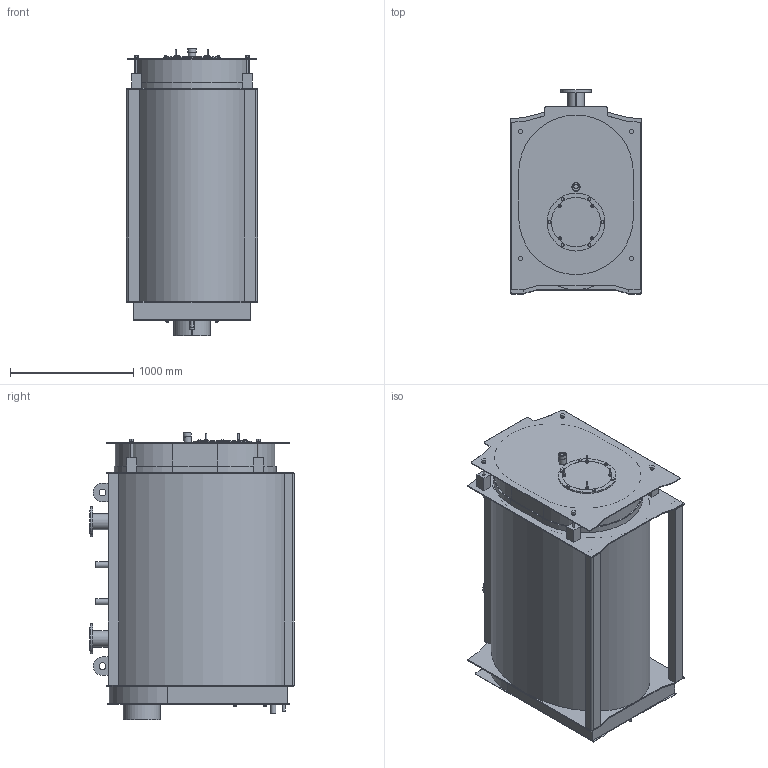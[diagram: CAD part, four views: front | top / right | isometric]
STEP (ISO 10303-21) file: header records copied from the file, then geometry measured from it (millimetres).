
FILE_DESCRIPTION (( 'STEP AP214' ), '1' );
FILE_NAME ('Ultratherm 750.STEP', '2019-10-10T08:33:40', ( '' ), ( '' ), 'SwSTEP 2.0', 'SolidWorks 2016', '' );
FILE_SCHEMA (( 'AUTOMOTIVE_DESIGN' ));
Length unit declared in the file: millimetre
Products named in the file (2): Ultratherm 750
Bounding box: 1068 x 1661 x 2333.81 mm (x, y, z)
Volume: 2639931864.3 mm3; surface area: 33034538.1 mm2
Topology: 71 solids, 71 shells, 474 faces, 983 edges, 657 vertices
Faces by surface type: plane 362, cylinder 99, cone 12, bspline 1
Full cylindrical faces by diameter (mm): 12 x4, 15.7 x1, 18 x16, 20 x4, 21.3 x1, 24 x14, 26 x1, 30.6 x4, 36 x1, 42 x3, 48 x2, 55 x2, 57.835 x1, 60 x1, 65 x1, 124 x2, 133 x2, 245 x2, 400 x1, 470 x1
Entity records: 12770 total; most frequent: DIRECTION 2048, CARTESIAN_POINT 2031, ORIENTED_EDGE 1780, EDGE_CURVE 890, AXIS2_PLACEMENT_3D 685, LINE 678, VECTOR 678, VERTEX_POINT 640
